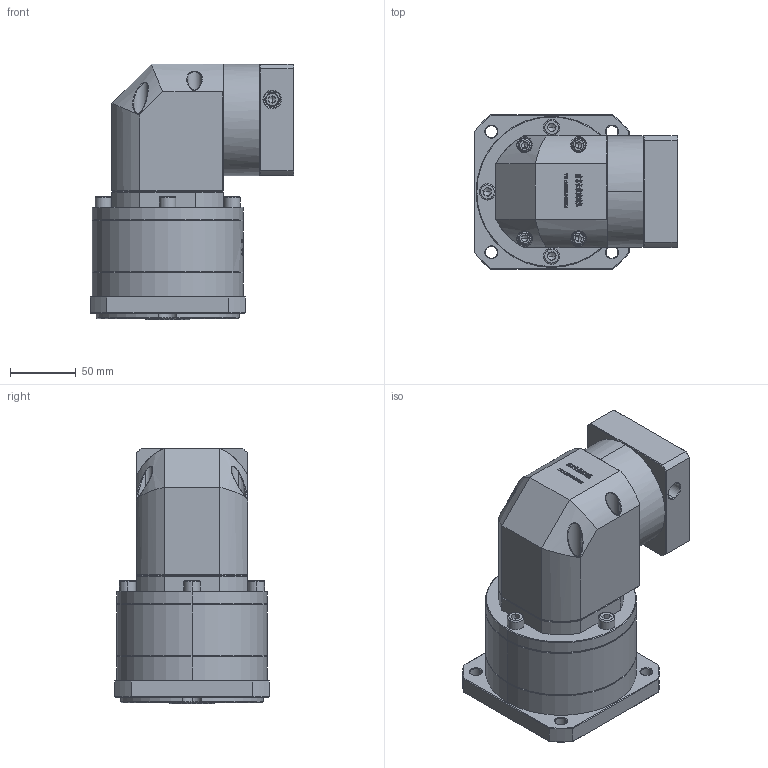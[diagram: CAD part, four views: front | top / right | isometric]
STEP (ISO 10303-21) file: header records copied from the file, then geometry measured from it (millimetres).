
FILE_DESCRIPTION (( 'STEP AP214' ), '1' );
FILE_NAME ('ZFR120A-K25-L2-19-80-100-M6.step', '2023-03-08T05:51:29', ( '' ), ( '' ), 'SwSTEP 2.0', 'SolidWorks 2016', '' );
FILE_SCHEMA (( 'AUTOMOTIVE_DESIGN' ));
Length unit declared in the file: millimetre
Products named in the file (1): ZFR120A-K25-L2-19-80-100-M6
Bounding box: 155.1 x 118 x 195 mm (x, y, z)
Volume: 1813091 mm3; surface area: 169057.4 mm2
Topology: 6 solids, 6 shells, 2948 faces, 7820 edges, 5020 vertices
Faces by surface type: plane 1569, bspline 616, cylinder 422, cone 327, torus 14
Entity records: 158229 total; most frequent: CARTESIAN_POINT 58397, ORIENTED_EDGE 15552, DIRECTION 11493, EDGE_CURVE 7776, VERTEX_POINT 5020, VECTOR 4871, LINE 4871, AXIS2_PLACEMENT_3D 3311
